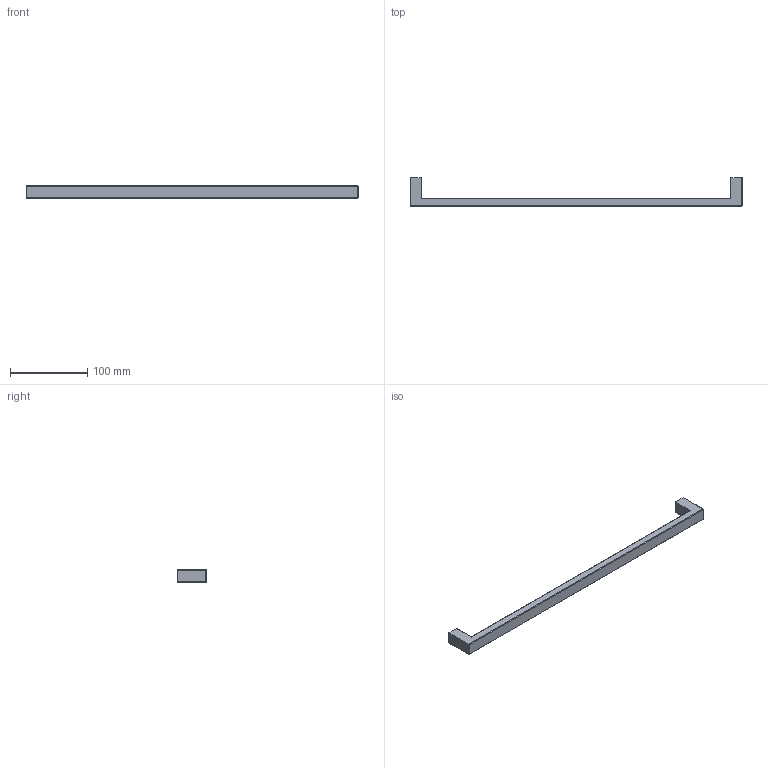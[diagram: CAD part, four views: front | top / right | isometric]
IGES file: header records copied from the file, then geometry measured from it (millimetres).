
Start section: Data from Parasolid IGES Translator 15.0.47, Copyright(c) 2006 Siemens P LM Software. All Rights Reserved.
Global section: file name: 9113252.igs; native system:  By UGS Corp.; preprocessor: XPlus GENERIC/IGES 3.0; author: Noname; organization: Noname; date: 20140122.181714; units: millimetre
Bounding box: 431 x 37 x 16.01 mm (x, y, z)
Surface area: 25855.7 mm2 (no closed solid volume)
Topology: 0 solids, 0 shells, 34 faces, 164 edges, 162 vertices
Faces by surface type: revolution 18, extrusion 16
